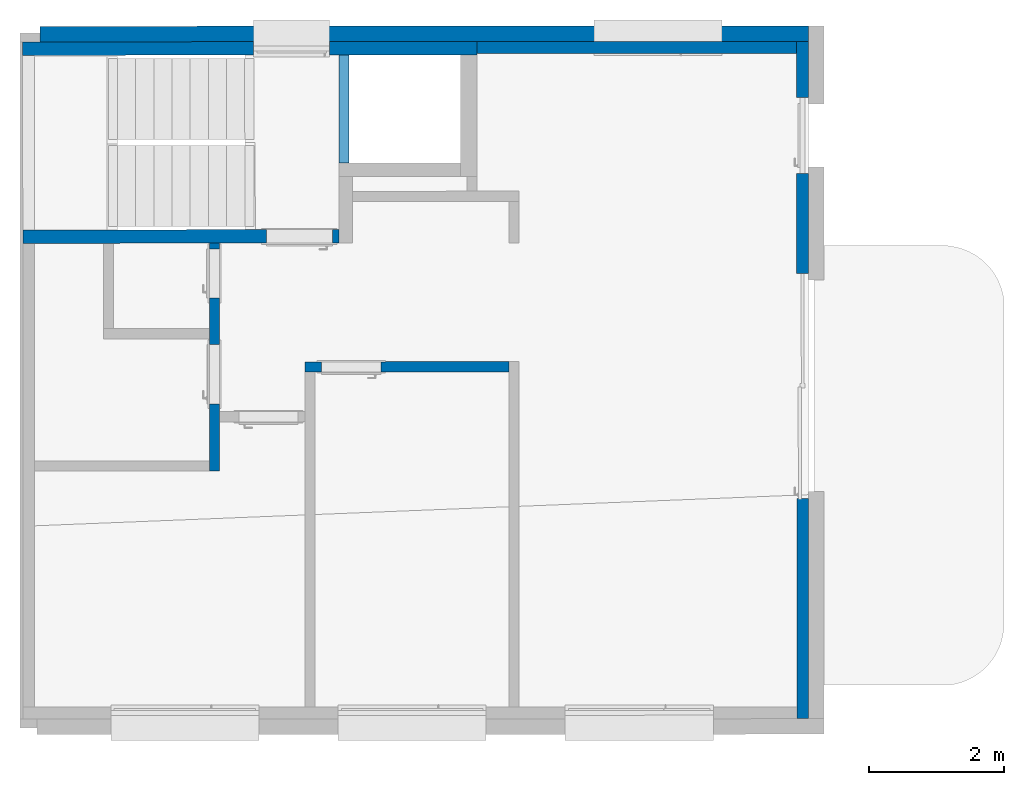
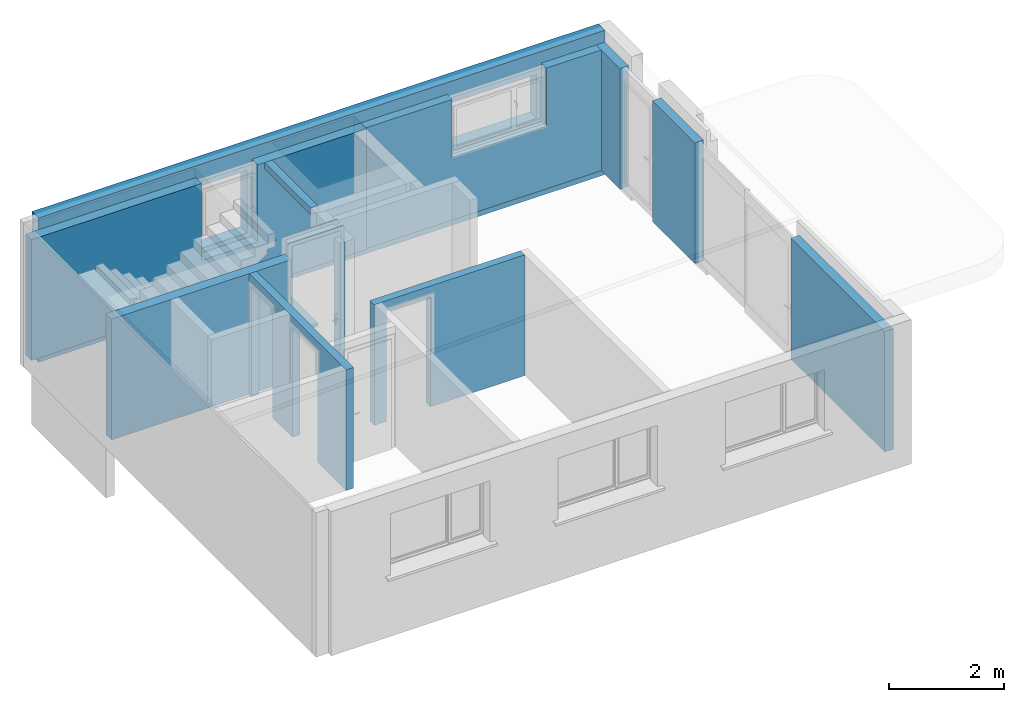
# One storey, part 2 of 8: 8 walls, 11 openings.
"""IFC2X3 building model written with IfcOpenShell, lengths in metres."""

from ifc_helpers import new_model, entity, si_unit, converted_unit, derived_unit, direction, frame, origin, place, context, subcontext, project, spatial, faceted_brep, material, element, save


model = new_model("IFC2X3")

# Units and contexts
model_context = context("Model", 3, precision=1e-05, world=origin(), true_north=direction((0.772621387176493, -0.634867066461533)))
body_context = subcontext(model_context, "Body", "Model", "MODEL_VIEW")
ifc_project = project(units=[si_unit("LENGTHUNIT", "METRE"), si_unit("AREAUNIT", "SQUARE_METRE"), si_unit("VOLUMEUNIT", "CUBIC_METRE"), si_unit("MASSUNIT", "GRAM", prefix="KILO"), converted_unit("PLANEANGLEUNIT", "DEGREE", entity("IfcPlaneAngleMeasure", 0.0174532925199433), si_unit("PLANEANGLEUNIT", "RADIAN"), dimensions=[0, 0, 0, 0, 0, 0, 0]), derived_unit("THERMALTRANSMITTANCEUNIT", [(si_unit("POWERUNIT", "WATT"), 1), (si_unit("THERMODYNAMICTEMPERATUREUNIT", "KELVIN"), -1), (si_unit("LENGTHUNIT", "METRE"), -2)]), derived_unit("VOLUMETRICFLOWRATEUNIT", [(si_unit("LENGTHUNIT", "METRE"), 3), (converted_unit("TIMEUNIT", "hour", entity("IfcTimeMeasure", 3600.0), si_unit("TIMEUNIT", "SECOND"), dimensions=[0, 0, 1, 0, 0, 0, 0]), -1), (si_unit("LENGTHUNIT", "METRE"), -1)])], contexts=[model_context])

# Site, building, storey
site_placement = place(None, origin())
site = spatial("IfcSite", under=ifc_project, at=site_placement, Name="Modelle auf dem Nullpunkt", CompositionType="ELEMENT")
building_placement = place(site_placement, origin())
building = spatial("IfcBuilding", under=site, at=building_placement, Name="I", CompositionType="ELEMENT")
storey_placement = place(building_placement, origin())
storey = spatial("IfcBuildingStorey", under=building, at=storey_placement, Name="2.OG", CompositionType="ELEMENT", Elevation=0.0)

# Wall, opening
ifc_material_1 = material(Name="Béton")
wall_1_placement = place(storey_placement, frame((29.3679339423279, -0.853385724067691, 441.67)))
wall_1 = element("IfcWall", 1, at=wall_1_placement, inside=storey, material=ifc_material_1, Name="Betonwand", context=body_context, shape_type="Brep", body=[
    faceted_brep([(4.69499970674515, 0.201659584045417, 0.0), (4.69507040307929, 0.00165959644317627, 0.0), (4.69507040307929, 0.00165959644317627, 2.57), (4.69499970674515, 0.201659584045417, 2.57), (7.06963341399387e-05, 0.0, 0.0), (7.06963341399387e-05, 0.0, 2.57), (0.0, 0.199999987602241, 0.0), (0.0, 0.199999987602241, 2.57)], [[[0, 1, 2, 3]], [[1, 4, 5, 2]], [[4, 6, 7, 5]], [[6, 0, 3, 7]], [[3, 2, 5, 7]], [[0, 6, 4, 1]]], orient=[[False], [False], [False], [False], [False], [False]]),
])
opening_1_placement = place(wall_1_placement, frame((3.61499977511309, 0.00127783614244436, 0.0)))
element("IfcOpeningElement", 2, at=opening_1_placement, cuts=wall_1, ObjectType="Opening", context=body_context, shape_type="Brep", body=[
    faceted_brep([(0.979999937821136, 0.200346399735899, 0.0), (0.979999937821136, 0.200346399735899, 2.57), (0.0, 0.199999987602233, 2.57), (0.0, 0.199999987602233, 0.0), (0.980070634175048, 0.000346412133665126, 0.0), (7.06963539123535e-05, 0.0, 0.0), (7.06963539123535e-05, 0.0, 2.57), (0.980070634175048, 0.000346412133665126, 2.57)], [[[0, 1, 2, 3]], [[4, 5, 6, 7]], [[3, 5, 4, 0]], [[6, 5, 3, 2]], [[0, 4, 7, 1]], [[7, 6, 2, 1]]], orient=[[False], [False], [False], [False], [False], [False]]),
])

# Wall, openings
ifc_material_2 = material(Name="Brique")
wall_2_placement = place(storey_placement, frame((32.1380044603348, -4.23240637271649, 441.67)))
wall_2 = element("IfcWall", 3, at=wall_2_placement, inside=storey, material=ifc_material_2, context=body_context, shape_type="Brep", body=[
    faceted_brep([(0.15119475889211, 5.30222465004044e-05, 0.0), (0.00119476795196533, 0.0, 0.0), (0.00119476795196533, 0.0, 2.57), (0.15119475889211, 5.30222465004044e-05, 2.57), (0.0, 3.37999978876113, 0.0), (0.0, 3.37999978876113, 2.57), (0.149999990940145, 3.38005281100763, 0.0), (0.149999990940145, 3.38005281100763, 2.57)], [[[0, 1, 2, 3]], [[1, 4, 5, 2]], [[4, 6, 7, 5]], [[6, 0, 3, 7]], [[3, 2, 5, 7]], [[0, 6, 4, 1]]], orient=[[False], [False], [False], [False], [False], [False]]),
])
opening_2_placement = place(wall_2_placement, frame((0.000531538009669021, 0.996278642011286, 0.0)))
element("IfcOpeningElement", 4, at=opening_2_placement, cuts=wall_2, ObjectType="Opening", context=body_context, shape_type="Brep", body=[
    faceted_brep([(0.000311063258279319, 0.0, 0.0), (0.0, 0.879999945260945, 0.0), (0.0, 0.879999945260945, 2.35), (0.000311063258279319, 0.0, 2.35), (0.15031105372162, 5.30221462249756e-05, 0.0), (0.15031105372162, 5.30221462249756e-05, 2.35), (0.149999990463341, 0.88005296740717, 2.35), (0.149999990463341, 0.88005296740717, 0.0)], [[[0, 1, 2, 3]], [[4, 5, 6, 7]], [[1, 0, 4, 7]], [[2, 1, 7, 6]], [[3, 2, 6, 5]], [[0, 3, 5, 4]]], orient=[[False], [False], [False], [False], [False], [False]]),
])
opening_3_placement = place(wall_2_placement, frame((3.0045986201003e-05, 2.564999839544, 0.0)))
element("IfcOpeningElement", 5, at=opening_3_placement, cuts=wall_2, ObjectType="Opening", context=body_context, shape_type="Brep", body=[
    faceted_brep([(0.000258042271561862, 0.0, 0.0), (0.0, 0.729999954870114, 0.0), (0.0, 0.729999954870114, 2.35), (0.000258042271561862, 0.0, 2.35), (0.150258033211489, 5.30223846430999e-05, 0.0), (0.150258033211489, 5.30223846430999e-05, 2.35), (0.149999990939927, 0.730052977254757, 2.35), (0.149999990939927, 0.730052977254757, 0.0)], [[[0, 1, 2, 3]], [[4, 5, 6, 7]], [[1, 0, 4, 7]], [[2, 1, 7, 6]], [[3, 2, 6, 5]], [[0, 3, 5, 4]]], orient=[[False], [False], [False], [False], [False], [False]]),
])

# Wall, opening
ifc_material_3 = material(Name="Brique")
wall_3_placement = place(storey_placement, frame((36.1119473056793, 1.96399833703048, 441.67)))
wall_3 = element("IfcWall", 6, at=wall_3_placement, inside=storey, material=ifc_material_3, context=body_context, shape_type="Brep", body=[
    faceted_brep([(4.73999970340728, 0.176675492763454, 0.0), (4.74006156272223, 0.0016755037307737, 0.0), (4.74006156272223, 0.0016755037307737, 2.57), (4.73999970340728, 0.176675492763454, 2.57), (6.18593149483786e-05, 0.0, 0.0), (6.18593149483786e-05, 0.0, 2.57), (0.0, 0.17499998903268, 0.0), (0.0, 0.17499998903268, 2.57)], [[[0, 1, 2, 3]], [[1, 4, 5, 2]], [[4, 6, 7, 5]], [[6, 0, 3, 7]], [[3, 2, 5, 7]], [[0, 6, 4, 1]]], orient=[[False], [False], [False], [False], [False], [False]]),
])
opening_4_placement = place(wall_3_placement, frame((1.73499989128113, 0.000613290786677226, 1.33)))
element("IfcOpeningElement", 7, at=opening_4_placement, cuts=wall_3, ObjectType="Opening", context=body_context, shape_type="Brep", body=[
    faceted_brep([(1.90006174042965, 0.000671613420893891, 0.0), (6.1859130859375e-05, 0.0, 0.0), (6.1859130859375e-05, 0.0, 1.24), (1.90006174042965, 0.000671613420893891, 1.24), (1.89999988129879, 0.17567160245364, 0.0), (1.89999988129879, 0.17567160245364, 1.24), (0.0, 0.174999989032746, 1.24), (0.0, 0.174999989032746, 0.0)], [[[0, 1, 2, 3]], [[4, 5, 6, 7]], [[1, 0, 4, 7]], [[2, 1, 7, 6]], [[3, 2, 6, 5]], [[0, 3, 5, 4]]], orient=[[False], [False], [False], [False], [False], [False]]),
])

# Wall, openings
ifc_material_4 = material(Name="Béton")
wall_4_placement = place(storey_placement, frame((40.851947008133, -7.90932554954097, 441.67)))
wall_4 = element("IfcWall", 8, at=wall_4_placement, inside=storey, material=ifc_material_4, Name="Betonwand", context=body_context, shape_type="Brep", body=[
    faceted_brep([(0.178552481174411, 6.18593077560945e-05, 0.0), (0.00355249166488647, 0.0, 0.0), (0.00355249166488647, 0.0, 2.57), (0.178552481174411, 6.18593077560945e-05, 2.57), (0.0, 10.0499993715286, 0.0), (0.0, 10.0499993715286, 2.57), (0.174999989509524, 10.0500612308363, 0.0), (0.174999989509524, 10.0500612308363, 2.57)], [[[0, 1, 2, 3]], [[1, 4, 5, 2]], [[4, 6, 7, 5]], [[6, 0, 3, 7]], [[3, 2, 5, 7]], [[0, 6, 4, 1]]], orient=[[False], [False], [False], [False], [False], [False]]),
])
opening_5_placement = place(wall_4_placement, frame((0.000293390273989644, 8.08999949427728, 0.0)))
element("IfcOpeningElement", 9, at=opening_5_placement, cuts=wall_4, ObjectType="Opening", context=body_context, shape_type="Brep", body=[
    faceted_brep([(0.00039943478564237, 0.0, 0.0), (0.0, 1.12999992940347, 0.0), (0.0, 1.12999992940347, 2.57), (0.00039943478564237, 0.0, 2.57), (0.175399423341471, 6.18593692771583e-05, 0.0), (0.175399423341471, 6.18593692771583e-05, 2.57), (0.174999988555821, 1.13006178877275, 2.57), (0.174999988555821, 1.13006178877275, 0.0)], [[[0, 1, 2, 3]], [[4, 5, 6, 7]], [[1, 0, 4, 7]], [[2, 1, 7, 6]], [[3, 2, 6, 5]], [[0, 3, 5, 4]]], orient=[[False], [False], [False], [False], [False], [False]]),
])
opening_6_placement = place(wall_4_placement, frame((0.00121597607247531, 3.26999979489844, 0.0)))
element("IfcOpeningElement", 10, at=opening_6_placement, cuts=wall_4, ObjectType="Opening", context=body_context, shape_type="Brep", body=[
    faceted_brep([(0.17618061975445, 6.18593692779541e-05, 0.0), (0.17618061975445, 6.18593692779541e-05, 2.57), (0.174999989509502, 3.34006165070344, 2.57), (0.174999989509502, 3.34006165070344, 0.0), (0.00118063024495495, 0.0, 0.0), (0.0, 3.33999979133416, 0.0), (0.0, 3.33999979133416, 2.57), (0.00118063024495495, 0.0, 2.57)], [[[0, 1, 2, 3]], [[4, 5, 6, 7]], [[3, 5, 4, 0]], [[2, 6, 5, 3]], [[1, 7, 6, 2]], [[0, 4, 7, 1]]], orient=[[False], [False], [False], [False], [False], [False]]),
])

# Wall, opening
ifc_material_5 = material(Name="Béton")
wall_5_placement = place(storey_placement, frame((29.3669477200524, 1.93661409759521, 441.67)))
wall_5 = element("IfcWall", 11, at=wall_5_placement, inside=storey, material=ifc_material_5, Name="Betonwand", context=body_context, shape_type="Brep", body=[
    faceted_brep([(6.74499957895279, 0.202384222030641, 0.0), (6.74507027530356, 0.00238423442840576, 0.0), (6.74507027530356, 0.00238423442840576, 2.57), (6.74499957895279, 0.202384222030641, 2.57), (7.06963507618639e-05, 0.0, 0.0), (7.06963507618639e-05, 0.0, 2.57), (0.0, 0.199999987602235, 0.0), (0.0, 0.199999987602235, 2.57)], [[[0, 1, 2, 3]], [[1, 4, 5, 2]], [[4, 6, 7, 5]], [[6, 0, 3, 7]], [[3, 2, 5, 7]], [[0, 6, 4, 1]]], orient=[[False], [False], [False], [False], [False], [False]]),
])
opening_7_placement = place(wall_5_placement, frame((3.42499978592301, 0.00121067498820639, 0.93)))
element("IfcOpeningElement", 12, at=opening_7_placement, cuts=wall_5, ObjectType="Opening", context=body_context, shape_type="Brep", body=[
    faceted_brep([(1.12999992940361, 0.200399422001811, 0.0), (1.12999992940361, 0.200399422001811, 1.64), (0.0, 0.199999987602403, 1.64), (0.0, 0.199999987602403, 0.0), (1.13007062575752, 0.000399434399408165, 0.0), (7.06963539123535e-05, 0.0, 0.0), (7.06963539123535e-05, 0.0, 1.64), (1.13007062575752, 0.000399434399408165, 1.64)], [[[0, 1, 2, 3]], [[4, 5, 6, 7]], [[3, 5, 4, 0]], [[2, 6, 5, 3]], [[1, 7, 6, 2]], [[0, 4, 7, 1]]], orient=[[False], [False], [False], [False], [False], [False]]),
])

# Wall, openings
ifc_material_6 = material(Name="Isolation périphérique")
wall_6_placement = place(storey_placement, frame((29.6268664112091, 2.13670599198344, 441.42)))
wall_6 = element("IfcWall", 13, at=wall_6_placement, inside=storey, material=ifc_material_6, context=body_context, shape_type="Brep", body=[
    faceted_brep([(11.3999992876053, 0.234029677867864, 0.0), (11.4000805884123, 0.00402969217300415, 0.0), (11.4000805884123, 0.00402969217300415, 3.07), (11.3999992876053, 0.234029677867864, 3.07), (8.13008070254e-05, 0.0, 0.0), (8.13008070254e-05, 0.0, 3.07), (0.0, 0.22999998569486, 0.0), (0.0, 0.22999998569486, 3.07)], [[[0, 1, 2, 3]], [[1, 4, 5, 2]], [[4, 6, 7, 5]], [[6, 0, 3, 7]], [[3, 2, 5, 7]], [[0, 6, 4, 1]]], orient=[[False], [False], [False], [False], [False], [False]]),
])
opening_8_placement = place(wall_6_placement, frame((3.26499979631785, 0.00115411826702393, 1.28)))
element("IfcOpeningElement", 14, at=opening_8_placement, cuts=wall_6, ObjectType="Opening", context=body_context, shape_type="Brep", body=[
    faceted_brep([(0.929999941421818, 0.230328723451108, 0.0), (0.929999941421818, 0.230328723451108, 1.33), (0.0, 0.229999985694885, 1.33), (0.0, 0.229999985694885, 0.0), (0.930081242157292, 0.000328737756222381, 0.0), (8.13007354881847e-05, 0.0, 0.0), (8.13007354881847e-05, 0.0, 1.33), (0.930081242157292, 0.000328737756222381, 1.33)], [[[0, 1, 2, 3]], [[4, 5, 6, 7]], [[3, 5, 4, 0]], [[2, 6, 5, 3]], [[1, 7, 6, 2]], [[0, 4, 7, 1]]], orient=[[False], [False], [False], [False], [False], [False]]),
])
opening_9_placement = place(wall_6_placement, frame((8.31999948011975, 0.00294096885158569, 1.68)))
element("IfcOpeningElement", 15, at=opening_9_placement, cuts=wall_6, ObjectType="Opening", context=body_context, shape_type="Brep", body=[
    faceted_brep([(1.69999989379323, 0.230600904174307, 0.0), (1.69999989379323, 0.230600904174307, 0.93), (0.0, 0.229999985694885, 0.93), (0.0, 0.229999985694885, 0.0), (1.7000811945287, 0.000600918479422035, 0.0), (8.13007354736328e-05, 0.0, 0.0), (8.13007354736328e-05, 0.0, 0.93), (1.7000811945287, 0.000600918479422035, 0.93)], [[[0, 1, 2, 3]], [[4, 5, 6, 7]], [[3, 5, 4, 0]], [[2, 6, 5, 3]], [[1, 7, 6, 2]], [[0, 4, 7, 1]]], orient=[[False], [False], [False], [False], [False], [False]]),
])

# Wall, opening
ifc_material_7 = material(Name="Brique")
wall_7_placement = place(storey_placement, frame((33.5536264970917, -2.76190628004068, 441.67)))
wall_7 = element("IfcWall", 16, at=wall_7_placement, inside=storey, material=ifc_material_7, context=body_context, shape_type="Brep", body=[
    faceted_brep([(5.30222618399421e-05, 0.0, 0.0), (0.0, 0.149999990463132, 0.0), (0.0, 0.149999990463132, 2.57), (5.30222618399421e-05, 0.0, 2.57), (3.02999981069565, 0.151071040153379, 0.0), (3.02999981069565, 0.151071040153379, 2.57), (3.03005283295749, 0.00107104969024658, 0.0), (3.03005283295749, 0.00107104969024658, 2.57)], [[[0, 1, 2, 3]], [[1, 4, 5, 2]], [[4, 6, 7, 5]], [[6, 0, 3, 7]], [[3, 2, 5, 7]], [[0, 6, 4, 1]]], orient=[[False], [False], [False], [False], [False], [False]]),
])
opening_10_placement = place(wall_7_placement, frame((0.24999998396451, 8.83704363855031e-05, 0.0)))
element("IfcOpeningElement", 17, at=opening_10_placement, cuts=wall_7, ObjectType="Opening", context=body_context, shape_type="Brep", body=[
    faceted_brep([(0.880052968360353, 0.000311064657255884, 0.0), (5.30223846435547e-05, 0.0, 0.0), (5.30223846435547e-05, 0.0, 2.35), (0.880052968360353, 0.000311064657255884, 2.35), (0.879999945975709, 0.150311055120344, 0.0), (0.879999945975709, 0.150311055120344, 2.35), (0.0, 0.149999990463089, 2.35), (0.0, 0.149999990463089, 0.0)], [[[0, 1, 2, 3]], [[4, 5, 6, 7]], [[1, 0, 4, 7]], [[2, 1, 7, 6]], [[3, 2, 6, 5]], [[0, 3, 5, 4]]], orient=[[False], [False], [False], [False], [False], [False]]),
])

ifc_material_8 = material(Name="Béton")
wall_8_placement = place(storey_placement, frame((34.0620181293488, 0.338273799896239, 441.67)))
wall_8 = element("IfcWall", 18, at=wall_8_placement, inside=storey, material=ifc_material_8, Name="Betonwand", context=body_context, shape_type="Brep", body=[
    faceted_brep([(0.0, 1.5999998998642, 0.0), (0.1499999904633, 1.60005292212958, 0.0), (0.1499999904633, 1.60005292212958, 2.57), (0.0, 1.5999998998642, 2.57), (0.150565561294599, 5.30222653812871e-05, 0.0), (0.150565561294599, 5.30222653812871e-05, 2.57), (0.000565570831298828, 0.0, 0.0), (0.000565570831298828, 0.0, 2.57)], [[[0, 1, 2, 3]], [[1, 4, 5, 2]], [[4, 6, 7, 5]], [[6, 0, 3, 7]], [[3, 2, 5, 7]], [[0, 6, 4, 1]]], orient=[[False], [False], [False], [False], [False], [False]]),
])
opening_11_placement = place(wall_8_placement, frame((0.0, 0.0, 0.065)))
element("IfcOpeningElement", 19, at=opening_11_placement, cuts=wall_8, ObjectType="Opening", context=body_context, shape_type="Brep", body=[
    faceted_brep([(0.15056556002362, 5.30221462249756e-05, 0.0), (0.15056556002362, 5.30221462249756e-05, 2.365), (0.149999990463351, 1.60005292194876, 2.365), (0.149999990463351, 1.60005292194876, 0.0), (0.000565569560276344, 0.0, 0.0), (0.0, 1.59999989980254, 0.0), (0.0, 1.59999989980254, 2.365), (0.000565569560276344, 0.0, 2.365)], [[[0, 1, 2, 3]], [[4, 5, 6, 7]], [[3, 5, 4, 0]], [[2, 6, 5, 3]], [[1, 7, 6, 2]], [[0, 4, 7, 1]]], orient=[[False], [False], [False], [False], [False], [False]]),
])

save(model, "model.ifc")
